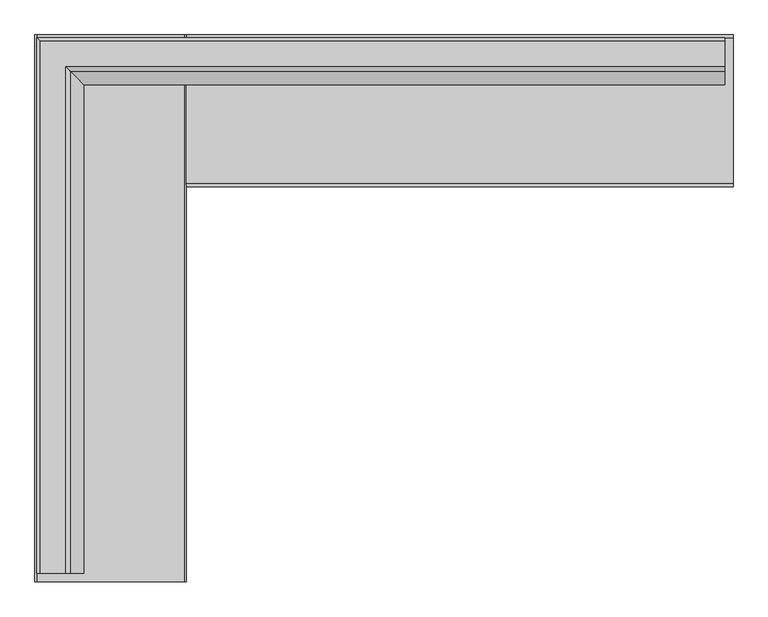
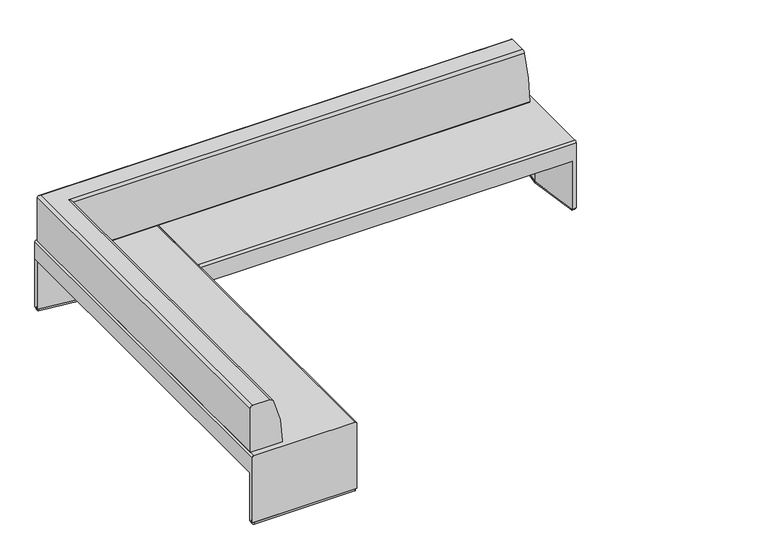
"""IFC4 building model written with IfcOpenShell, lengths in millimetres: furniture geometry, Coalesse_AM_Seating_Bench_Together_LeftCorner : 1.5in Back Offset - 96.5D x 123.25W."""

import ifcopenshell
import ifcopenshell.guid

model = None  # the IFC model being written
_history = None  # IfcOwnerHistory: only IFC2X3 demands one
_inside = {}  # id of a spatial element -> (the spatial element, [elements in it])
_under = {}  # id of a project, library or spatial element -> (it, [spatial elements below it])
_declared = {}  # id of a project -> (the project, [libraries it declares])
_typed = {}  # id of a type object -> (the type object, [elements of that type])
_made_of = {}  # id of a material, layer set ... -> (it, [elements and type objects made of it])


def new_model(schema):
    """Start an empty IFC model of exactly this schema.

    Asked for "IFC4X3", IfcOpenShell would pick the latest addendum, in which some entities
    have other attributes; the version numbers below select the first issue.
    IFC2X3 requires an IfcOwnerHistory on every rooted entity: one is made here for all.
    """
    global model, _history
    if schema == "IFC4X3":
        model = ifcopenshell.file(schema_version=(4, 3, 0, 0))
    else:
        model = ifcopenshell.file(schema=schema)
    _inside.clear()
    _under.clear()
    _declared.clear()
    _typed.clear()
    _made_of.clear()
    _history = None
    if model.schema == "IFC2X3":
        org = make("IfcOrganization", Name="unknown")
        user = make(
            "IfcPersonAndOrganization",
            ThePerson=make("IfcPerson", FamilyName="unknown"),
            TheOrganization=org,
        )
        app = make(
            "IfcApplication",
            ApplicationDeveloper=org,
            Version="unknown",
            ApplicationFullName="unknown",
            ApplicationIdentifier="unknown",
        )
        _history = make(
            "IfcOwnerHistory",
            OwningUser=user,
            OwningApplication=app,
            ChangeAction="ADDED",
            CreationDate=0,
        )
    return model


def make(cls, **values):
    """One entity of the class cls with the attributes given. An attribute that is None is left unset."""
    return model.create_entity(
        cls, **{name: value for name, value in values.items() if value is not None}
    )


def rooted(cls, **values):
    """An entity with a GlobalId (a new one), such as an element, a storey or a relation."""
    return make(cls, GlobalId=ifcopenshell.guid.new(), OwnerHistory=_history, **values)


def si_unit(unit_type, name, prefix=None):
    """IfcSIUnit, for example si_unit("LENGTHUNIT", "METRE", prefix="MILLI")."""
    return make("IfcSIUnit", UnitType=unit_type, Prefix=prefix, Name=name)


def assignment(units):
    """IfcUnitAssignment: the units of a project."""
    return None if units is None else make("IfcUnitAssignment", Units=units)


def point(xyz):
    """IfcCartesianPoint."""
    return None if xyz is None else make("IfcCartesianPoint", Coordinates=xyz)


def direction(xyz):
    """IfcDirection."""
    return None if xyz is None else make("IfcDirection", DirectionRatios=xyz)


def frame(location, z_axis=None, x_axis=None):
    """IfcAxis2Placement3D, a coordinate frame: its origin and axes. An axis left out is left unset."""
    return make(
        "IfcAxis2Placement3D",
        Location=point(location),
        Axis=direction(z_axis),
        RefDirection=direction(x_axis),
    )


def frame_2d(location, x_axis=None):
    """IfcAxis2Placement2D, a coordinate frame in the plane: its origin and x axis."""
    return make(
        "IfcAxis2Placement2D", Location=point(location), RefDirection=direction(x_axis)
    )


def origin():
    """The frame at (0, 0, 0) with its axes left unset."""
    return frame((0.0, 0.0, 0.0))


def origin_with_axes():
    """The frame at (0, 0, 0) with the z axis (0, 0, 1) and the x axis (1, 0, 0) written out."""
    return frame((0.0, 0.0, 0.0), z_axis=(0.0, 0.0, 1.0), x_axis=(1.0, 0.0, 0.0))


def place(relative_to, where):
    """IfcLocalPlacement: puts the frame where relative to a parent placement (None: the world)."""
    return make(
        "IfcLocalPlacement", PlacementRelTo=relative_to, RelativePlacement=where
    )


def context(
    kind, dimensions, precision=None, world=None, true_north=None, identifier=None
):
    """IfcGeometricRepresentationContext, for example the 3D "Model" context."""
    return make(
        "IfcGeometricRepresentationContext",
        ContextIdentifier=identifier,
        ContextType=kind,
        CoordinateSpaceDimension=dimensions,
        Precision=precision,
        WorldCoordinateSystem=world,
        TrueNorth=true_north,
    )


def project(units=None, contexts=None):
    """IfcProject with its units and contexts."""
    return rooted(
        "IfcProject",
        Name="project",
        RepresentationContexts=contexts,
        UnitsInContext=assignment(units),
    )


def spatial(cls, under=None, at=None, **own):
    """A site, building, storey or space (cls), placed at a placement, below another one or the project."""
    s = rooted(cls, ObjectPlacement=at, **own)
    if under is not None:
        _under.setdefault(under.id(), (under, []))[1].append(s)
    return s


def polyline(points):
    """IfcPolyline through the points."""
    return make("IfcPolyline", Points=[point(p) for p in points])


def circle_curve(where, radius):
    """IfcCircle in the frame where."""
    return make("IfcCircle", Position=where, Radius=radius)


def ellipse_curve(where, semi_axis1, semi_axis2):
    """IfcEllipse in the frame where."""
    return make(
        "IfcEllipse", Position=where, SemiAxis1=semi_axis1, SemiAxis2=semi_axis2
    )


def trimmed(basis, trim1, trim2, sense, master):
    """IfcTrimmedCurve: the piece of a basis curve between two trims."""
    return make(
        "IfcTrimmedCurve",
        BasisCurve=basis,
        Trim1=trim1,
        Trim2=trim2,
        SenseAgreement=sense,
        MasterRepresentation=master,
    )


def segment(curve, same_sense, transition):
    """IfcCompositeCurveSegment."""
    return make(
        "IfcCompositeCurveSegment",
        Transition=transition,
        SameSense=same_sense,
        ParentCurve=curve,
    )


def composite_curve(segments, self_intersect=None):
    """IfcCompositeCurve: segments joined end to end."""
    return make("IfcCompositeCurve", Segments=segments, SelfIntersect=self_intersect)


def outline(outer, holes=None, kind="AREA"):
    """IfcArbitraryClosedProfileDef: a profile drawn as a closed curve; with holes, ...WithVoids."""
    if holes is None:
        return make("IfcArbitraryClosedProfileDef", ProfileType=kind, OuterCurve=outer)
    return make(
        "IfcArbitraryProfileDefWithVoids",
        ProfileType=kind,
        OuterCurve=outer,
        InnerCurves=holes,
    )


def extrude(swept, where, along, depth):
    """IfcExtrudedAreaSolid: the profile swept, set in the frame where, extruded along a direction by depth."""
    return make(
        "IfcExtrudedAreaSolid",
        SweptArea=swept,
        Position=where,
        ExtrudedDirection=direction(along),
        Depth=depth,
    )


def shape(context_of_items, identifier, shape_type, items):
    """IfcShapeRepresentation: the items that make up one representation, for example the "Body"."""
    return make(
        "IfcShapeRepresentation",
        ContextOfItems=context_of_items,
        RepresentationIdentifier=identifier,
        RepresentationType=shape_type,
        Items=items,
    )


def source(mapping_origin, context_of_items, identifier, shape_type, items):
    """IfcRepresentationMap: a shape defined once, which mapped items show again and again."""
    return make(
        "IfcRepresentationMap",
        MappingOrigin=mapping_origin,
        MappedRepresentation=shape(context_of_items, identifier, shape_type, items),
    )


def transform(
    local_origin,
    x_axis=None,
    y_axis=None,
    z_axis=None,
    scale=None,
    scale2=None,
    scale3=None,
    uniform=True,
):
    """IfcCartesianTransformationOperator3D, or its non-uniform kind. x_axis, y_axis, z_axis: its Axis1, 2, 3."""
    if uniform:
        return make(
            "IfcCartesianTransformationOperator3D",
            Axis1=direction(x_axis),
            Axis2=direction(y_axis),
            LocalOrigin=point(local_origin),
            Scale=scale,
            Axis3=direction(z_axis),
        )
    return make(
        "IfcCartesianTransformationOperator3DnonUniform",
        Axis1=direction(x_axis),
        Axis2=direction(y_axis),
        LocalOrigin=point(local_origin),
        Scale=scale,
        Axis3=direction(z_axis),
        Scale2=scale2,
        Scale3=scale3,
    )


def mapped(mapping_source, mapping_target):
    """IfcMappedItem: shows the shape of a source again, moved by a transform."""
    return make(
        "IfcMappedItem", MappingSource=mapping_source, MappingTarget=mapping_target
    )


def made_of(thing, what):
    """Note that an element or type object is made of a material, layer set ...; save() writes the relation."""
    if what is not None:
        _made_of.setdefault(what.id(), (what, []))[1].append(thing)
    return thing


def element(
    cls,
    number,
    at=None,
    inside=None,
    cuts=None,
    type_object=None,
    material=None,
    context=None,
    identifier="Body",
    shape_type=None,
    held_by="IfcProductDefinitionShape",
    body=None,
    shapes=None,
    **own,
):
    """One element of the class cls, such as IfcWall. Its Tag is "e" and its number.

    at: its placement. inside: the storey or other place that contains it. cuts: it is an
    opening in that element (IfcRelVoidsElement). A single representation is given by context,
    identifier, shape_type and body (its items); several are given by shapes. held_by: the class
    of the entity that holds the representations. save() writes the other relations.
    """
    e = rooted(cls, Tag="e%d" % number, ObjectPlacement=at, **own)
    if body is not None:
        shapes = [shape(context, identifier, shape_type, body)]
    if shapes is not None:
        e.Representation = make(held_by, Representations=shapes)
    if inside is not None:
        _inside.setdefault(inside.id(), (inside, []))[1].append(e)
    if cuts is not None:
        rooted(
            "IfcRelVoidsElement", RelatingBuildingElement=cuts, RelatedOpeningElement=e
        )
    if type_object is not None:
        _typed.setdefault(type_object.id(), (type_object, []))[1].append(e)
    return made_of(e, material)


def aggregate(whole, parts):
    """IfcRelAggregates: a whole, such as a stair, and the parts it consists of."""
    return rooted("IfcRelAggregates", RelatingObject=whole, RelatedObjects=parts)


def save(model, path):
    """Write the relations noted so far, then the file.

    IfcRelAggregates (storeys below a building ...), IfcRelContainedInSpatialStructure (elements
    in a storey), IfcRelDefinesByType, IfcRelAssociatesMaterial and IfcRelDeclares: one each for
    every whole, place, type object, material and project.
    """
    for whole, parts in _under.values():
        aggregate(whole, parts)
    for where, things in _inside.values():
        rooted(
            "IfcRelContainedInSpatialStructure",
            RelatedElements=things,
            RelatingStructure=where,
        )
    for kind, things in _typed.values():
        rooted("IfcRelDefinesByType", RelatedObjects=things, RelatingType=kind)
    for what, things in _made_of.values():
        rooted("IfcRelAssociatesMaterial", RelatedObjects=things, RelatingMaterial=what)
    for by, libraries in _declared.values():
        rooted("IfcRelDeclares", RelatingContext=by, RelatedDefinitions=libraries)
    model.write(path)


def plane_surface(at):
    """IfcPlane: the flat surface through the origin of the frame at, square to its z axis."""
    return make("IfcPlane", Position=at)


def cylinder_surface(at, radius):
    """IfcCylindricalSurface: all points at the distance radius from the z axis of the frame at."""
    return make("IfcCylindricalSurface", Position=at, Radius=radius)


def advanced_brep(points, edges, surfaces, faces):
    """IfcAdvancedBrep: a solid bounded by faces that lie on surfaces and meet in shared edges.

    An edge is (start, end): straight between two places in points (the first is 0);
    or (start, end, curve); or (start, end, curve, False) where it runs against its curve.
    A face is (place in surfaces, loops), or (place, loops, False) where it looks against
    its surface's normal. A loop lists edges by number (the first is 1), with a minus sign
    where the edge is run from its end to its start. The first loop is the outer one.
    """
    corners = [point(p) for p in points]
    vertices = [make("IfcVertexPoint", VertexGeometry=c) for c in corners]
    made = []
    for start, end, *more in edges:
        made.append(
            make(
                "IfcEdgeCurve",
                EdgeStart=vertices[start],
                EdgeEnd=vertices[end],
                EdgeGeometry=more[0] if more else make("IfcPolyline", Points=[corners[start], corners[end]]),
                SameSense=more[1] if len(more) > 1 else True,
            )
        )
    hull = []
    for where, loops, *sense in faces:
        bounds = []
        for j, loop in enumerate(loops):
            ring = [make("IfcOrientedEdge", EdgeElement=made[abs(k) - 1], Orientation=k > 0) for k in loop]
            bounds.append(
                make(
                    "IfcFaceOuterBound" if j == 0 else "IfcFaceBound",
                    Bound=make("IfcEdgeLoop", EdgeList=ring),
                    Orientation=True,
                )
            )
        hull.append(make("IfcAdvancedFace", Bounds=bounds, FaceSurface=surfaces[where], SameSense=sense[0] if sense else True))
    return make("IfcAdvancedBrep", Outer=make("IfcClosedShell", CfsFaces=hull))


def furniture_9dbe1792(model_context):
    return source(origin(), model_context, "Body", "SolidModel", [
        extrude(outline(composite_curve([segment(polyline([(2381.1760341, 342.7173042), (2424.8994541, 668.3404046)]), True, "CONTINUOUS"), segment(trimmed(circle_curve(frame_2d((2431.8678665, 667.4047129)), 7.0309522), [point((2424.8994541, 668.3404046))], [point((2431.8621236, 674.4356628))], False, "CARTESIAN"), True, "CONTINUOUS"), segment(polyline([(2431.8621236, 674.4356628), (2444.385141, 674.4458915)]), True, "CONTINUOUS"), segment(trimmed(circle_curve(frame_2d((2444.3903277, 668.0958937)), 6.35), [point((2444.385141, 674.4458915))], [point((2450.7403256, 668.1010803))], False, "CARTESIAN"), True, "CONTINUOUS"), segment(polyline([(2450.7403256, 668.1010803), (2451.2758418, 12.4700002)]), True, "CONTINUOUS"), segment(trimmed(circle_curve(frame_2d((2444.9258439, 12.4648135)), 6.35), [point((2451.2758418, 12.4700002))], [point((2444.9310305, 6.1148157))], False, "CARTESIAN"), True, "CONTINUOUS"), segment(polyline([(2444.9310305, 6.1148157), (2432.4737657, 6.1046406)]), True, "CONTINUOUS"), segment(trimmed(circle_curve(frame_2d((2432.4685791, 12.4546385)), 6.35), [point((2432.4737657, 6.1046406))], [point((2426.1764214, 11.5995062))], False, "CARTESIAN"), True, "CONTINUOUS"), segment(polyline([(2426.1764214, 11.5995062), (2381.1760341, 342.7173042)]), True, "CONTINUOUS")], self_intersect=False)), origin_with_axes(), (0.0, 0.0, 1.0), 12.7976677),
        extrude(outline(composite_curve([segment(polyline([(-342.242834, 610.6565573), (-667.8301127, 654.6459299)]), True, "CONTINUOUS"), segment(trimmed(circle_curve(frame_2d((-666.8887296, 661.6135757)), 7.0309522), [point((-667.8301127, 654.6459299))], [point((-673.9196818, 661.6135757))], False, "CARTESIAN"), True, "CONTINUOUS"), segment(polyline([(-673.9196818, 661.6135757), (-673.9196818, 674.1365973)]), True, "CONTINUOUS"), segment(trimmed(circle_curve(frame_2d((-667.5696818, 674.1365973)), 6.35), [point((-673.9196818, 674.1365973))], [point((-667.5696818, 680.4865973))], False, "CARTESIAN"), True, "CONTINUOUS"), segment(polyline([(-667.5696818, 680.4865973), (-11.938383, 680.4865973)]), True, "CONTINUOUS"), segment(trimmed(circle_curve(frame_2d((-11.938383, 674.1365973)), 6.35), [point((-11.938383, 680.4865973))], [point((-5.588383, 674.1365973))], False, "CARTESIAN"), True, "CONTINUOUS"), segment(polyline([(-5.588383, 674.1365973), (-5.588383, 661.6793283)]), True, "CONTINUOUS"), segment(trimmed(circle_curve(frame_2d((-11.938383, 661.6793283)), 6.35), [point((-5.588383, 661.6793283))], [point((-11.0883904, 655.3864742))], False, "CARTESIAN"), True, "CONTINUOUS"), segment(polyline([(-11.0883904, 655.3864742), (-342.242834, 610.6565573)]), True, "CONTINUOUS")], self_intersect=False)), origin_with_axes(), (0.0, 0.0, 1.0), 12.7976677),
        extrude(outline(composite_curve([segment(polyline([(-342.242834, -1700.1204812), (-11.0883904, -1744.8503981)]), True, "CONTINUOUS"), segment(trimmed(circle_curve(frame_2d((-11.938383, -1751.1432522)), 6.35), [point((-11.0883904, -1744.8503981))], [point((-5.588383, -1751.1432522))], False, "CARTESIAN"), True, "CONTINUOUS"), segment(polyline([(-5.588383, -1751.1432522), (-5.588383, -1763.6005212)]), True, "CONTINUOUS"), segment(trimmed(circle_curve(frame_2d((-11.938383, -1763.6005212)), 6.35), [point((-5.588383, -1763.6005212))], [point((-11.938383, -1769.9505212))], False, "CARTESIAN"), True, "CONTINUOUS"), segment(polyline([(-11.938383, -1769.9505212), (-667.5696818, -1769.9505212)]), True, "CONTINUOUS"), segment(trimmed(circle_curve(frame_2d((-667.5696818, -1763.6005212)), 6.35), [point((-667.5696818, -1769.9505212))], [point((-673.9196818, -1763.6005212))], False, "CARTESIAN"), True, "CONTINUOUS"), segment(polyline([(-673.9196818, -1763.6005212), (-673.9196818, -1751.0774996)]), True, "CONTINUOUS"), segment(trimmed(circle_curve(frame_2d((-666.8887296, -1751.0774996)), 7.0309522), [point((-673.9196818, -1751.0774996))], [point((-667.8301127, -1744.1098538))], False, "CARTESIAN"), True, "CONTINUOUS"), segment(polyline([(-667.8301127, -1744.1098538), (-342.242834, -1700.1204812)]), True, "CONTINUOUS")], self_intersect=False)), origin_with_axes(), (0.0, 0.0, 1.0), 12.7976677),
        advanced_brep(
        [(2451.2283223, 12.7, 471.2287949), (2451.2283223, 0.0, 458.5287949), (2451.2283223, 0.0, 12.7976677), (2451.2283223, 680.4865973, 12.7976677), (2451.2283223, 680.4865973, 458.5287949), (2451.2283223, 667.7865973, 471.2287949), (0.0, 12.7, 471.2287949), (0.0, 667.7865973, 471.2287949), (0.0, 680.4865973, 458.5287949), (0.0, 680.4865973, 343.3718099), (0.0, 0.0, 343.3718099), (0.0, 0.0, 458.5287949), (2425.0526241, 0.0, 343.3718099), (2425.0515424, 0.0, 12.7976677), (2425.3585944, 680.4865973, 343.3718099), (2380.7200419, 337.8527218, 343.3718099), (2425.3596556, 680.4865973, 12.7976677), (2380.7200419, 337.8527218, 12.7976677)],
        [
            (0, 1, circle_curve(frame((2451.2283223, 12.7, 458.5287949), z_axis=(1.0, 0.0, 0.0), x_axis=(0.0, -1.0, 0.0)), 12.7)),
            (1, 2),
            (2, 3),
            (3, 4),
            (4, 5, circle_curve(frame((2451.2283223, 667.7865973, 458.5287949), z_axis=(1.0, 0.0, 0.0), x_axis=(0.0, -1.0, 0.0)), 12.7)),
            (5, 0),
            (6, 7),
            (7, 8, circle_curve(frame((0.0, 667.7865973, 458.5287949), z_axis=(-1.0, 0.0, 0.0), x_axis=(0.0, -1.0, 0.0)), 12.7)),
            (8, 9),
            (9, 10),
            (10, 11),
            (11, 6, circle_curve(frame((0.0, 12.7, 458.5287949), z_axis=(-1.0, 0.0, 0.0), x_axis=(0.0, -1.0, 0.0)), 12.7)),
            (0, 6),
            (11, 1),
            (10, 12),
            (12, 13),
            (13, 2),
            (9, 14),
            (14, 15),
            (15, 12),
            (3, 16),
            (16, 14),
            (8, 4),
            (7, 5),
            (17, 16),
            (13, 17),
            (15, 17),
        ],
        [
            plane_surface(frame((2451.2283223, 0.0, 458.5287949), z_axis=(1.0, 0.0, 0.0), x_axis=(0.0, 0.0, -1.0))),
            plane_surface(frame((0.0, 0.0, 458.5287949), z_axis=(-1.0, 0.0, 0.0), x_axis=(0.0, 0.0, 1.0))),
            cylinder_surface(frame((0.0, 12.7, 458.5287949), z_axis=(1.0, 0.0, 0.0), x_axis=(0.0, -1.0, 0.0)), 12.7),
            plane_surface(frame((2451.2283223, 0.0, 458.5287949), z_axis=(0.0, -1.0, 0.0), x_axis=(-1.0, 0.0, 0.0))),
            plane_surface(frame((2451.2283223, 0.0, 343.3718099), z_axis=(0.0, 0.0, -1.0), x_axis=(-1.0, 0.0, 0.0))),
            plane_surface(frame((2451.2283223, 680.4865973, 343.3718099), z_axis=(0.0, 1.0, 0.0), x_axis=(-1.0, 0.0, 0.0))),
            cylinder_surface(frame((0.0, 667.7865973, 458.5287949), z_axis=(1.0, 0.0, 0.0), x_axis=(0.0, -1.0, 0.0)), 12.7),
            plane_surface(frame((2451.2283223, 667.7865973, 471.2287949), z_axis=(0.0, 0.0, 1.0), x_axis=(-1.0, 0.0, 0.0))),
            plane_surface(frame((2380.7200419, 337.8527218, 12.7976677), z_axis=(0.0, 0.0, -1.0), x_axis=(-0.13010336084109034, 0.9915004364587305, 0.0))),
            plane_surface(frame((2380.7200419, 337.8527218, 343.3718099), z_axis=(-0.9915004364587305, -0.13010336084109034, 0.0), x_axis=(0.0, 0.0, -1.0))),
            plane_surface(frame((2425.3596556, 680.4947435, 343.3718099), z_axis=(-0.9916200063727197, 0.1291888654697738, 0.0), x_axis=(0.0, 0.0, -1.0))),
        ],
        [
            (0, [[1, 2, 3, 4, 5, 6]]),
            (1, [[7, 8, 9, 10, 11, 12]]),
            (2, [[-1, 13, -12, 14]]),
            (3, [[-2, -14, -11, 15, 16, 17]]),
            (4, [[-10, 18, 19, 20, -15]]),
            (5, [[-4, 21, 22, -18, -9, 23]]),
            (6, [[-5, -23, -8, 24]]),
            (7, [[-6, -24, -7, -13]]),
            (8, [[25, -21, -3, -17, 26]]),
            (9, [[-26, -16, -20, 27]]),
            (10, [[-25, -27, -19, -22]]),
        ],
    ),
        advanced_brep(
        [(0.0, -1770.8336068, 462.8584293), (-8.3703656, -1770.8336068, 471.2287949), (-669.1616777, -1770.8336068, 471.2287949), (-679.3216777, -1770.8336068, 461.0687949), (-679.3216777, -1770.8336068, 12.7976677), (0.0, -1770.8336068, 12.7976677), (0.0, 680.2663932, 343.3718099), (-679.3216777, 680.2663932, 343.3718099), (-679.3216777, 680.2663932, 461.0687949), (-669.1616777, 680.2663932, 471.2287949), (-8.3703656, 680.2663932, 471.2287949), (0.0, 680.2663932, 462.8584293), (0.0, -1744.8418934, 12.7976677), (0.0, -1744.8418934, 343.3718099), (-679.3216777, -1744.8418934, 343.3718099), (-679.3216777, -1744.8418934, 12.7976677), (-337.6103648, -1700.4329621, 343.3718099), (-337.6103648, -1700.4329621, 12.7976677)],
        [
            (0, 1, circle_curve(frame((-8.3703656, -1770.8336068, 462.8584293), z_axis=(0.0, -1.0, 0.0), x_axis=(1.0, 0.0, 0.0)), 8.3703656)),
            (1, 2),
            (2, 3, circle_curve(frame((-669.1616777, -1770.8336068, 461.0687949), z_axis=(0.0, -1.0, 0.0), x_axis=(1.0, 0.0, 0.0)), 10.16)),
            (3, 4),
            (4, 5),
            (5, 0),
            (6, 7),
            (7, 8),
            (8, 9, circle_curve(frame((-669.1616777, 680.2663932, 461.0687949), z_axis=(0.0, 1.0, 0.0), x_axis=(1.0, 0.0, 0.0)), 10.16)),
            (9, 10),
            (10, 11, circle_curve(frame((-8.3703656, 680.2663932, 462.8584293), z_axis=(0.0, 1.0, 0.0), x_axis=(1.0, 0.0, 0.0)), 8.3703656)),
            (11, 6),
            (5, 12),
            (12, 13),
            (13, 6),
            (11, 0),
            (10, 1),
            (9, 2),
            (8, 3),
            (7, 14),
            (14, 15),
            (15, 4),
            (13, 16),
            (16, 14),
            (17, 12),
            (15, 17),
            (16, 17),
        ],
        [
            plane_surface(frame((0.0, -1770.8336068, 432.906134), z_axis=(0.0, -1.0, 0.0), x_axis=(0.0, 0.0, 1.0))),
            plane_surface(frame((0.0, 680.2663932, 432.906134), z_axis=(0.0, 1.0, 0.0), x_axis=(0.0, 0.0, -1.0))),
            plane_surface(frame((0.0, -1770.8336068, 343.3718099), z_axis=(1.0, 0.0, 0.0), x_axis=(0.0, 1.0, 0.0))),
            cylinder_surface(frame((-8.3703656, 680.2663932, 462.8584293), z_axis=(0.0, -1.0, 0.0), x_axis=(1.0, 0.0, 0.0)), 8.3703656),
            plane_surface(frame((-8.3703656, -1770.8336068, 471.2287949), z_axis=(0.0, 0.0, 1.0), x_axis=(0.0, 1.0, 0.0))),
            cylinder_surface(frame((-669.1616777, 680.2663932, 461.0687949), z_axis=(0.0, -1.0, 0.0), x_axis=(1.0, 0.0, 0.0)), 10.16),
            plane_surface(frame((-679.3216777, -1770.8336068, 461.0687949), z_axis=(-1.0, 0.0, 0.0), x_axis=(0.0, 1.0, 0.0))),
            plane_surface(frame((-679.3216777, -1770.8336068, 343.3718099), z_axis=(0.0, 0.0, -1.0), x_axis=(0.0, 1.0, 0.0))),
            plane_surface(frame((-679.3216777, -1744.8418934, 12.7976677), z_axis=(0.0, 0.0, -1.0), x_axis=(0.9916606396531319, 0.12887659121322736, 0.0))),
            plane_surface(frame((-337.6103648, -1700.4329621, 343.3718099), z_axis=(-0.12887659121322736, 0.9916606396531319, 0.0), x_axis=(0.0, 0.0, -1.0))),
            plane_surface(frame((0.0, -1744.8418934, 343.3718099), z_axis=(0.13041558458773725, 0.9914594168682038, 0.0), x_axis=(0.0, 0.0, -1.0))),
        ],
        [
            (0, [[1, 2, 3, 4, 5, 6]]),
            (1, [[7, 8, 9, 10, 11, 12]]),
            (2, [[-6, 13, 14, 15, -12, 16]]),
            (3, [[-1, -16, -11, 17]]),
            (4, [[-2, -17, -10, 18]]),
            (5, [[-3, -18, -9, 19]]),
            (6, [[-4, -19, -8, 20, 21, 22]]),
            (7, [[-7, -15, 23, 24, -20]]),
            (8, [[25, -13, -5, -22, 26]]),
            (9, [[-26, -21, -24, 27]]),
            (10, [[-25, -27, -23, -14]]),
        ],
    ),
        extrude(outline(polyline([(-337.6103648, 610.0859526), (-679.4232219, 654.5080806), (-679.4232219, 680.4865973), (0.0, 680.4865973), (0.0, 654.4948838), (-337.6103648, 610.0859526)])), frame((0.0, 0.0, 12.7976677), z_axis=(0.0, 0.0, 1.0), x_axis=(1.0, 0.0, 0.0)), (0.0, 0.0, 1.0), 330.5741422),
        advanced_brep(
        [(-542.7579952, -1732.7336068, 789.6908243), (-654.9720681, -1732.7336068, 789.6908243), (-670.6127132, -1732.7336068, 774.0501793), (-670.6127132, -1732.7336068, 471.9907949), (-669.8507132, -1732.7336068, 471.2287949), (-467.2326916, -1732.7336068, 471.2287949), (-460.8827115, -1732.7336068, 477.5628851), (-521.8690853, -1732.7336068, 775.9296487), (-542.7579952, 539.2094278, 789.6908243), (2413.1283223, 539.2094278, 789.6908243), (2413.1283223, 651.4235007, 789.6908243), (-654.9720681, 651.4235007, 789.6908243), (-670.6127132, 667.0641458, 774.0501793), (-670.6127132, 667.0641458, 471.9907949), (-669.8507132, 666.3021458, 471.2287949), (2413.1283223, 666.3021458, 471.2287949), (2413.1283223, 463.6841242, 471.2287949), (-467.2326916, 463.6841242, 471.2287949), (-460.8827115, 457.3341441, 477.5628851), (-521.8690853, 518.3205179, 775.9296487), (2413.1283223, 518.3205179, 775.9296487), (2413.1283223, 457.3341441, 477.5628851), (2413.1283223, 667.0641458, 471.9907949), (2413.1283223, 667.0641458, 774.0501793)],
        [
            (0, 1),
            (1, 2, circle_curve(frame((-654.9720681, -1732.7336068, 774.0501793), z_axis=(0.0, -1.0, 0.0), x_axis=(-1.0, 0.0, 0.0)), 15.6406451)),
            (2, 3),
            (3, 4, circle_curve(frame((-669.8507132, -1732.7336068, 471.9907949), z_axis=(0.0, -1.0, 0.0), x_axis=(-1.0, 0.0, 0.0)), 0.762)),
            (4, 5),
            (5, 6, circle_curve(frame((-467.2326916, -1732.7336068, 477.5787949), z_axis=(0.0, -1.0, 0.0), x_axis=(-1.0, 0.0, 0.0)), 6.35)),
            (6, 7, circle_curve(frame((-1212.0260917, -1732.7336068, 479.4448666), z_axis=(0.0, -1.0, 0.0), x_axis=(-1.0, 0.0, 0.0)), 751.1457378)),
            (7, 0, circle_curve(frame((-542.7579952, -1732.7336068, 766.9559749), z_axis=(0.0, -1.0, 0.0), x_axis=(-1.0, 0.0, 0.0)), 22.7348495)),
            (0, 8),
            (8, 9),
            (9, 10),
            (10, 11),
            (11, 1),
            (11, 12, ellipse_curve(frame((-654.9720681, 651.4235007, 774.0501793), z_axis=(-0.7071067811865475, -0.7071067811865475, 0.0), x_axis=(0.7071067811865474, -0.7071067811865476, 0.0)), 22.1192124, 15.6406451)),
            (12, 2),
            (12, 13),
            (13, 3),
            (13, 14, ellipse_curve(frame((-669.8507132, 666.3021458, 471.9907949), z_axis=(-0.7071067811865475, -0.7071067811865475, 0.0), x_axis=(0.7071067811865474, -0.7071067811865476, 0.0)), 1.0776307, 0.762)),
            (14, 4),
            (14, 15),
            (15, 16),
            (16, 17),
            (17, 5),
            (17, 18, ellipse_curve(frame((-467.2326916, 463.6841242, 477.5787949), z_axis=(-0.7071067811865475, -0.7071067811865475, 0.0), x_axis=(0.7071067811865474, -0.7071067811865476, 0.0)), 8.9802561, 6.35)),
            (18, 6),
            (18, 19, ellipse_curve(frame((-1212.0260917, 1208.4775243, 479.4448666), z_axis=(-0.7071067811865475, -0.7071067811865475, 0.0), x_axis=(0.7071067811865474, -0.7071067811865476, 0.0)), 1062.2804897, 751.1457378)),
            (19, 7),
            (19, 8, ellipse_curve(frame((-542.7579952, 539.2094278, 766.9559749), z_axis=(-0.7071067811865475, -0.7071067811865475, 0.0), x_axis=(0.7071067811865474, -0.7071067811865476, 0.0)), 32.1519324, 22.7348495)),
            (9, 20, circle_curve(frame((2413.1283223, 539.2094278, 766.9559749), z_axis=(1.0, 0.0, 0.0), x_axis=(0.0, 1.0, 0.0)), 22.7348495)),
            (20, 21, circle_curve(frame((2413.1283223, 1208.4775243, 479.4448666), z_axis=(1.0, 0.0, 0.0), x_axis=(0.0, 1.0, 0.0)), 751.1457378)),
            (21, 16, circle_curve(frame((2413.1283223, 463.6841242, 477.5787949), z_axis=(1.0, 0.0, 0.0), x_axis=(0.0, 1.0, 0.0)), 6.35)),
            (15, 22, circle_curve(frame((2413.1283223, 666.3021458, 471.9907949), z_axis=(1.0, 0.0, 0.0), x_axis=(0.0, 1.0, 0.0)), 0.762)),
            (22, 23),
            (23, 10, circle_curve(frame((2413.1283223, 651.4235007, 774.0501793), z_axis=(1.0, 0.0, 0.0), x_axis=(0.0, 1.0, 0.0)), 15.6406451)),
            (23, 12),
            (22, 13),
            (21, 18),
            (20, 19),
        ],
        [
            plane_surface(frame((-460.0482755, -1732.7336068, 0.0), z_axis=(0.0, -1.0, 0.0), x_axis=(0.0, 0.0, 1.0))),
            plane_surface(frame((-542.7579952, -1732.7336068, 789.6908243), z_axis=(0.0, 0.0, 1.0), x_axis=(0.0, 1.0, 0.0))),
            cylinder_surface(frame((-654.9720681, -1732.7336068, 774.0501793), z_axis=(0.0, -1.0, 0.0), x_axis=(-1.0, 0.0, 0.0)), 15.6406451),
            plane_surface(frame((-670.6127132, -1732.7336068, 774.0501793), z_axis=(-1.0, 0.0, 0.0), x_axis=(0.0, 1.0, 0.0))),
            cylinder_surface(frame((-669.8507132, -1732.7336068, 471.9907949), z_axis=(0.0, -1.0, 0.0), x_axis=(-1.0, 0.0, 0.0)), 0.762),
            plane_surface(frame((-669.8507132, -1732.7336068, 471.2287949), z_axis=(0.0, 0.0, -1.0), x_axis=(0.0, 1.0, 0.0))),
            cylinder_surface(frame((-467.2326916, -1732.7336068, 477.5787949), z_axis=(0.0, -1.0, 0.0), x_axis=(-1.0, 0.0, 0.0)), 6.35),
            cylinder_surface(frame((-1212.0260917, -1732.7336068, 479.4448666), z_axis=(0.0, -1.0, 0.0), x_axis=(-1.0, 0.0, 0.0)), 751.1457378),
            cylinder_surface(frame((-542.7579952, -1732.7336068, 766.9559749), z_axis=(0.0, -1.0, 0.0), x_axis=(-1.0, 0.0, 0.0)), 22.7348495),
            plane_surface(frame((2413.1283223, 456.4997081, 0.0), z_axis=(1.0, 0.0, 0.0), x_axis=(0.0, 0.0, 1.0))),
            cylinder_surface(frame((-460.0482755, 651.4235007, 774.0501793), z_axis=(-1.0, 0.0, 0.0), x_axis=(0.0, 1.0, 0.0)), 15.6406451),
            plane_surface(frame((-670.6127132, 667.0641458, 774.0501793), z_axis=(0.0, 1.0, 0.0), x_axis=(1.0, 0.0, 0.0))),
            cylinder_surface(frame((-460.0482755, 666.3021458, 471.9907949), z_axis=(-1.0, 0.0, 0.0), x_axis=(0.0, 1.0, 0.0)), 0.762),
            cylinder_surface(frame((-460.0482755, 463.6841242, 477.5787949), z_axis=(-1.0, 0.0, 0.0), x_axis=(0.0, 1.0, 0.0)), 6.35),
            cylinder_surface(frame((-460.0482755, 1208.4775243, 479.4448666), z_axis=(-1.0, 0.0, 0.0), x_axis=(0.0, 1.0, 0.0)), 751.1457378),
            cylinder_surface(frame((-460.0482755, 539.2094278, 766.9559749), z_axis=(-1.0, 0.0, 0.0), x_axis=(0.0, 1.0, 0.0)), 22.7348495),
        ],
        [
            (0, [[1, 2, 3, 4, 5, 6, 7, 8]]),
            (1, [[-1, 9, 10, 11, 12, 13]]),
            (2, [[-2, -13, 14, 15]]),
            (3, [[-3, -15, 16, 17]]),
            (4, [[-4, -17, 18, 19]]),
            (5, [[-5, -19, 20, 21, 22, 23]]),
            (6, [[-6, -23, 24, 25]]),
            (7, [[-7, -25, 26, 27]]),
            (8, [[-8, -27, 28, -9]]),
            (9, [[29, 30, 31, -21, 32, 33, 34, -11]]),
            (10, [[-14, -12, -34, 35]]),
            (11, [[-16, -35, -33, 36]]),
            (12, [[-18, -36, -32, -20]]),
            (13, [[-24, -22, -31, 37]]),
            (14, [[-26, -37, -30, 38]]),
            (15, [[-28, -38, -29, -10]]),
        ],
    ),
    ])


if __name__ == "__main__":
    model = new_model("IFC4")
    model_context = context("Model", 3, world=origin())
    ifc_project = project(units=[si_unit("LENGTHUNIT", "METRE", prefix="MILLI")], contexts=[model_context])
    site = spatial("IfcSite", under=ifc_project)
    building = spatial("IfcBuilding", under=site)
    placement = place(None, origin())
    furniture_shape = furniture_9dbe1792(model_context)
    element("IfcFurniture", 1, ObjectType="Coalesse_AM_Seating_Bench_Together_LeftCorner : 1.5in Back Offset - 96.5D x 123.25W", at=placement, inside=building, context=model_context, shape_type="MappedRepresentation", body=[
        mapped(furniture_shape, transform((0.0, 0.0, 0.0), x_axis=(1.0, 0.0, 0.0), y_axis=(0.0, 1.0, 0.0), z_axis=(0.0, 0.0, 1.0))),
    ])
    save(model, "model.ifc")
